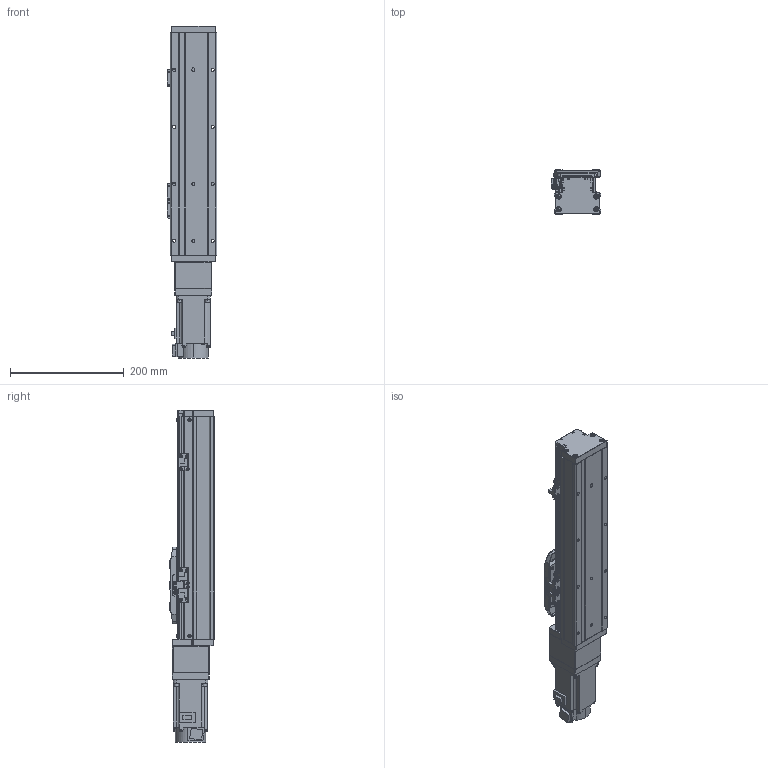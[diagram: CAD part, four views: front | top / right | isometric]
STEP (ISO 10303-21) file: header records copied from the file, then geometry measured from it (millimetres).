
FILE_DESCRIPTION (( 'STEP AP203' ), '1' );
FILE_NAME ('GTH8-200-BC-M20-C4.step', '2022-09-23T00:54:07', ( '微软用户' ), ( '微软中国' ), 'SwSTEP 2.0', 'SolidWorks 2020', '' );
FILE_SCHEMA (( 'CONFIG_CONTROL_DESIGN' ));
Length unit declared in the file: millimetre
Products named in the file (19): GTH80-003; GBT 70.1-M4×16; CTHA86-013; GTH80-004; GTH80-028; CTHA86-027; GTH80-006; GTH50-024; hg-kn43j_-s100_; GTH80-013; GTH50-023; GTH8-200-BC-M20-C4; GBT 70.3-M3℅6; GBT96.1-2002 3×0.8; GTH80-022; BTH-M3X5X6; GTH80-001_200; GBT 70.1-M3℅6; CTHA86-006-1_CTHA86-006-2
Assembly tree (60 placements, depth 2):
  GTH8-200-BC-M20-C4
    GTH80-001_200
    GTH80-003
    GTH80-004
    GTH80-006
    GTH80-013
    GBT 70.3-M3℅6  x6
    GTH80-022
    GBT 70.1-M3℅6  x14
    GBT 70.1-M4×16  x8
    GTH80-028  x2
    GTH50-024  x3
    GTH50-023  x3
    GBT96.1-2002 3×0.8  x6
    BTH-M3X5X6  x8
    CTHA86-006-1_CTHA86-006-2
    CTHA86-013
    CTHA86-027
    hg-kn43j_-s100_
Bounding box: 86.9 x 78 x 582.7 mm (x, y, z)
Volume: 2500462.5 mm3; surface area: 313655.7 mm2
Topology: 62 solids, 62 shells, 2215 faces, 5080 edges, 3091 vertices
Faces by surface type: plane 1173, cylinder 585, cone 285, torus 162, sphere 8, bspline 2
Entity records: 38224 total; most frequent: CARTESIAN_POINT 6311, DIRECTION 6254, ORIENTED_EDGE 5750, EDGE_CURVE 2875, AXIS2_PLACEMENT_3D 2176, LINE 1902, VECTOR 1902, VERTEX_POINT 1804
